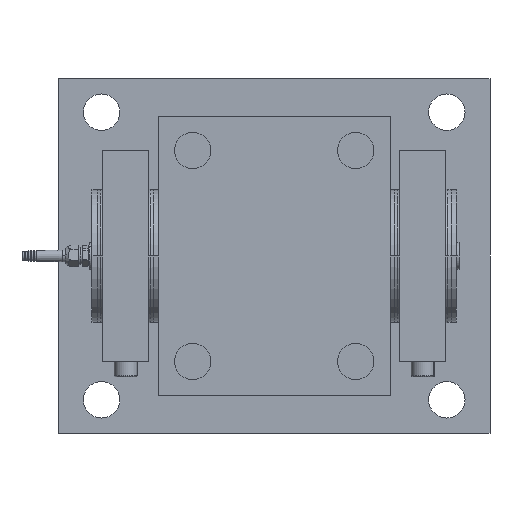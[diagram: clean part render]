
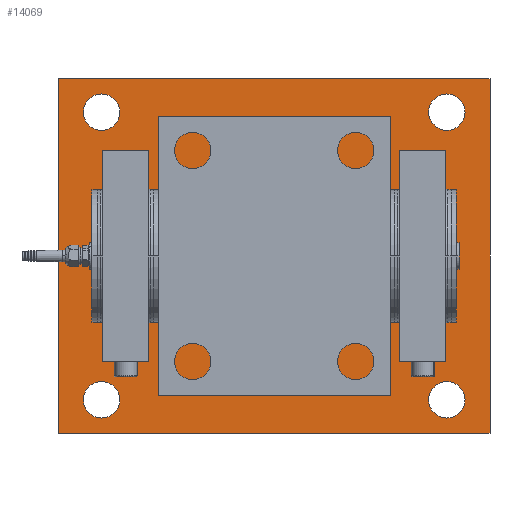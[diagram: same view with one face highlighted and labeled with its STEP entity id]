
A CAD part, front view. The second image highlights one B-rep face of the part: STEP entity #14069.
In plain terms, the highlighted planar face has unit normal (0, -1, 0) as drawn and (0, 1, 0) by its records, which use the part's own axes.
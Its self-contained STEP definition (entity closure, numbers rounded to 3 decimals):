
#124 = CARTESIAN_POINT ( 'NONE',  ( -180., 33., -131. ) ) ;
#254 = EDGE_CURVE ( 'NONE', #4818, #17181, #12255, .T. ) ;
#394 = EDGE_LOOP ( 'NONE', ( #19146, #3621 ) ) ;
#898 = VECTOR ( 'NONE', #7789, 1000. ) ;
#993 = EDGE_CURVE ( 'NONE', #17181, #4818, #12629, .T. ) ;
#1121 = CIRCLE ( 'NONE', #18281, 19. ) ;
#1207 = VECTOR ( 'NONE', #1937, 1000. ) ;
#1476 = EDGE_LOOP ( 'NONE', ( #15154, #14201 ) ) ;
#1539 = DIRECTION ( 'NONE',  ( 0., 0., 1. ) ) ;
#1640 = EDGE_CURVE ( 'NONE', #3838, #8475, #3139, .T. ) ;
#1902 = FACE_BOUND ( 'NONE', #1476, .T. ) ;
#1937 = DIRECTION ( 'NONE',  ( 1., 0., 0. ) ) ;
#2017 = VERTEX_POINT ( 'NONE', #19109 ) ;
#2024 = FACE_BOUND ( 'NONE', #11545, .T. ) ;
#2754 = VERTEX_POINT ( 'NONE', #14957 ) ;
#2975 = DIRECTION ( 'NONE',  ( 0., 1., 0. ) ) ;
#3139 = CIRCLE ( 'NONE', #16745, 19. ) ;
#3621 = ORIENTED_EDGE ( 'NONE', *, *, #993, .F. ) ;
#3838 = VERTEX_POINT ( 'NONE', #13450 ) ;
#3851 = CARTESIAN_POINT ( 'NONE',  ( 180., 33., -169. ) ) ;
#3895 = EDGE_CURVE ( 'NONE', #6903, #10066, #5677, .T. ) ;
#4167 = ORIENTED_EDGE ( 'NONE', *, *, #11869, .F. ) ;
#4200 = DIRECTION ( 'NONE',  ( 0., 0., -1. ) ) ;
#4309 = LINE ( 'NONE', #12707, #12130 ) ;
#4429 = CARTESIAN_POINT ( 'NONE',  ( -180., 33., 150. ) ) ;
#4818 = VERTEX_POINT ( 'NONE', #20498 ) ;
#4980 = CIRCLE ( 'NONE', #10359, 19. ) ;
#4992 = DIRECTION ( 'NONE',  ( 0., 1., 0. ) ) ;
#5257 = DIRECTION ( 'NONE',  ( 0., 1., 0. ) ) ;
#5457 = EDGE_LOOP ( 'NONE', ( #12962, #20904, #14177, #9701 ) ) ;
#5479 = PLANE ( 'NONE',  #12479 ) ;
#5668 = DIRECTION ( 'NONE',  ( 0., 0., 1. ) ) ;
#5677 = LINE ( 'NONE', #17653, #898 ) ;
#6154 = DIRECTION ( 'NONE',  ( 0., 0., 1. ) ) ;
#6271 = CARTESIAN_POINT ( 'NONE',  ( -180., 33., 131. ) ) ;
#6566 = DIRECTION ( 'NONE',  ( 0., 1., 0. ) ) ;
#6573 = CARTESIAN_POINT ( 'NONE',  ( -180., 33., -150. ) ) ;
#6643 = DIRECTION ( 'NONE',  ( 0., 0., 1. ) ) ;
#6903 = VERTEX_POINT ( 'NONE', #11112 ) ;
#7409 = CARTESIAN_POINT ( 'NONE',  ( 225., 33., 185. ) ) ;
#7627 = VERTEX_POINT ( 'NONE', #17562 ) ;
#7789 = DIRECTION ( 'NONE',  ( 0., 0., 1. ) ) ;
#7840 = DIRECTION ( 'NONE',  ( 0., 1., 0. ) ) ;
#8016 = VERTEX_POINT ( 'NONE', #14292 ) ;
#8069 = EDGE_CURVE ( 'NONE', #2754, #8016, #4309, .T. ) ;
#8135 = DIRECTION ( 'NONE',  ( 0., 1., 0. ) ) ;
#8475 = VERTEX_POINT ( 'NONE', #3851 ) ;
#8740 = VERTEX_POINT ( 'NONE', #16820 ) ;
#8835 = FACE_BOUND ( 'NONE', #394, .T. ) ;
#8881 = AXIS2_PLACEMENT_3D ( 'NONE', #6573, #16674, #18789 ) ;
#9396 = ORIENTED_EDGE ( 'NONE', *, *, #17716, .F. ) ;
#9701 = ORIENTED_EDGE ( 'NONE', *, *, #15470, .T. ) ;
#9997 = VECTOR ( 'NONE', #14083, 1000. ) ;
#10066 = VERTEX_POINT ( 'NONE', #16200 ) ;
#10192 = AXIS2_PLACEMENT_3D ( 'NONE', #13738, #6566, #1539 ) ;
#10359 = AXIS2_PLACEMENT_3D ( 'NONE', #13873, #5257, #5668 ) ;
#10612 = ORIENTED_EDGE ( 'NONE', *, *, #20121, .F. ) ;
#10633 = DIRECTION ( 'NONE',  ( 0., 0., 1. ) ) ;
#10984 = CARTESIAN_POINT ( 'NONE',  ( 180., 33., -150. ) ) ;
#11112 = CARTESIAN_POINT ( 'NONE',  ( -225., 33., -185. ) ) ;
#11545 = EDGE_LOOP ( 'NONE', ( #9396, #10612 ) ) ;
#11869 = EDGE_CURVE ( 'NONE', #12483, #8740, #19848, .T. ) ;
#12057 = CARTESIAN_POINT ( 'NONE',  ( 225., 33., -185. ) ) ;
#12130 = VECTOR ( 'NONE', #4200, 1000. ) ;
#12255 = CIRCLE ( 'NONE', #19060, 19. ) ;
#12292 = CARTESIAN_POINT ( 'NONE',  ( 0., 33., 0. ) ) ;
#12447 = LINE ( 'NONE', #7409, #1207 ) ;
#12479 = AXIS2_PLACEMENT_3D ( 'NONE', #12292, #19145, #10633 ) ;
#12483 = VERTEX_POINT ( 'NONE', #124 ) ;
#12629 = CIRCLE ( 'NONE', #15503, 19. ) ;
#12707 = CARTESIAN_POINT ( 'NONE',  ( 225., 33., 185. ) ) ;
#12962 = ORIENTED_EDGE ( 'NONE', *, *, #3895, .T. ) ;
#13305 = DIRECTION ( 'NONE',  ( 0., 0., 1. ) ) ;
#13450 = CARTESIAN_POINT ( 'NONE',  ( 180., 33., -131. ) ) ;
#13641 = LINE ( 'NONE', #12057, #9997 ) ;
#13738 = CARTESIAN_POINT ( 'NONE',  ( -180., 33., -150. ) ) ;
#13873 = CARTESIAN_POINT ( 'NONE',  ( 180., 33., 150. ) ) ;
#13994 = FACE_BOUND ( 'NONE', #17083, .T. ) ;
#14069 = ADVANCED_FACE ( 'NONE', ( #1902, #2024, #8835, #13994, #20833 ), #5479, .T. ) ;
#14083 = DIRECTION ( 'NONE',  ( -1., 0., 0. ) ) ;
#14177 = ORIENTED_EDGE ( 'NONE', *, *, #8069, .T. ) ;
#14201 = ORIENTED_EDGE ( 'NONE', *, *, #14327, .F. ) ;
#14292 = CARTESIAN_POINT ( 'NONE',  ( 225., 33., -185. ) ) ;
#14327 = EDGE_CURVE ( 'NONE', #8475, #3838, #18207, .T. ) ;
#14957 = CARTESIAN_POINT ( 'NONE',  ( 225., 33., 185. ) ) ;
#15154 = ORIENTED_EDGE ( 'NONE', *, *, #1640, .F. ) ;
#15340 = CIRCLE ( 'NONE', #8881, 19. ) ;
#15400 = EDGE_CURVE ( 'NONE', #8740, #12483, #15340, .T. ) ;
#15470 = EDGE_CURVE ( 'NONE', #8016, #6903, #13641, .T. ) ;
#15503 = AXIS2_PLACEMENT_3D ( 'NONE', #4429, #2975, #17883 ) ;
#16200 = CARTESIAN_POINT ( 'NONE',  ( -225., 33., 185. ) ) ;
#16674 = DIRECTION ( 'NONE',  ( 0., 1., 0. ) ) ;
#16745 = AXIS2_PLACEMENT_3D ( 'NONE', #10984, #7840, #6154 ) ;
#16820 = CARTESIAN_POINT ( 'NONE',  ( -180., 33., -169. ) ) ;
#17083 = EDGE_LOOP ( 'NONE', ( #4167, #18139 ) ) ;
#17181 = VERTEX_POINT ( 'NONE', #6271 ) ;
#17562 = CARTESIAN_POINT ( 'NONE',  ( 180., 33., 131. ) ) ;
#17653 = CARTESIAN_POINT ( 'NONE',  ( -225., 33., 185. ) ) ;
#17716 = EDGE_CURVE ( 'NONE', #2017, #7627, #4980, .T. ) ;
#17883 = DIRECTION ( 'NONE',  ( 0., 0., 1. ) ) ;
#18139 = ORIENTED_EDGE ( 'NONE', *, *, #15400, .F. ) ;
#18207 = CIRCLE ( 'NONE', #21079, 19. ) ;
#18281 = AXIS2_PLACEMENT_3D ( 'NONE', #20455, #4992, #18541 ) ;
#18341 = CARTESIAN_POINT ( 'NONE',  ( 180., 33., -150. ) ) ;
#18515 = CARTESIAN_POINT ( 'NONE',  ( -180., 33., 150. ) ) ;
#18541 = DIRECTION ( 'NONE',  ( 0., 0., 1. ) ) ;
#18789 = DIRECTION ( 'NONE',  ( 0., 0., 1. ) ) ;
#19060 = AXIS2_PLACEMENT_3D ( 'NONE', #18515, #22005, #6643 ) ;
#19109 = CARTESIAN_POINT ( 'NONE',  ( 180., 33., 169. ) ) ;
#19145 = DIRECTION ( 'NONE',  ( 0., 1., 0. ) ) ;
#19146 = ORIENTED_EDGE ( 'NONE', *, *, #254, .F. ) ;
#19848 = CIRCLE ( 'NONE', #10192, 19. ) ;
#20121 = EDGE_CURVE ( 'NONE', #7627, #2017, #1121, .T. ) ;
#20455 = CARTESIAN_POINT ( 'NONE',  ( 180., 33., 150. ) ) ;
#20498 = CARTESIAN_POINT ( 'NONE',  ( -180., 33., 169. ) ) ;
#20833 = FACE_OUTER_BOUND ( 'NONE', #5457, .T. ) ;
#20904 = ORIENTED_EDGE ( 'NONE', *, *, #21717, .T. ) ;
#21079 = AXIS2_PLACEMENT_3D ( 'NONE', #18341, #8135, #13305 ) ;
#21717 = EDGE_CURVE ( 'NONE', #10066, #2754, #12447, .T. ) ;
#22005 = DIRECTION ( 'NONE',  ( 0., 1., 0. ) ) ;
